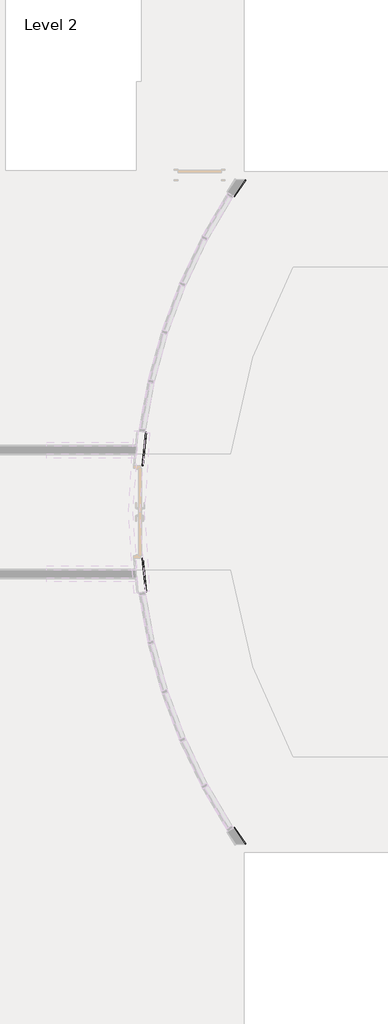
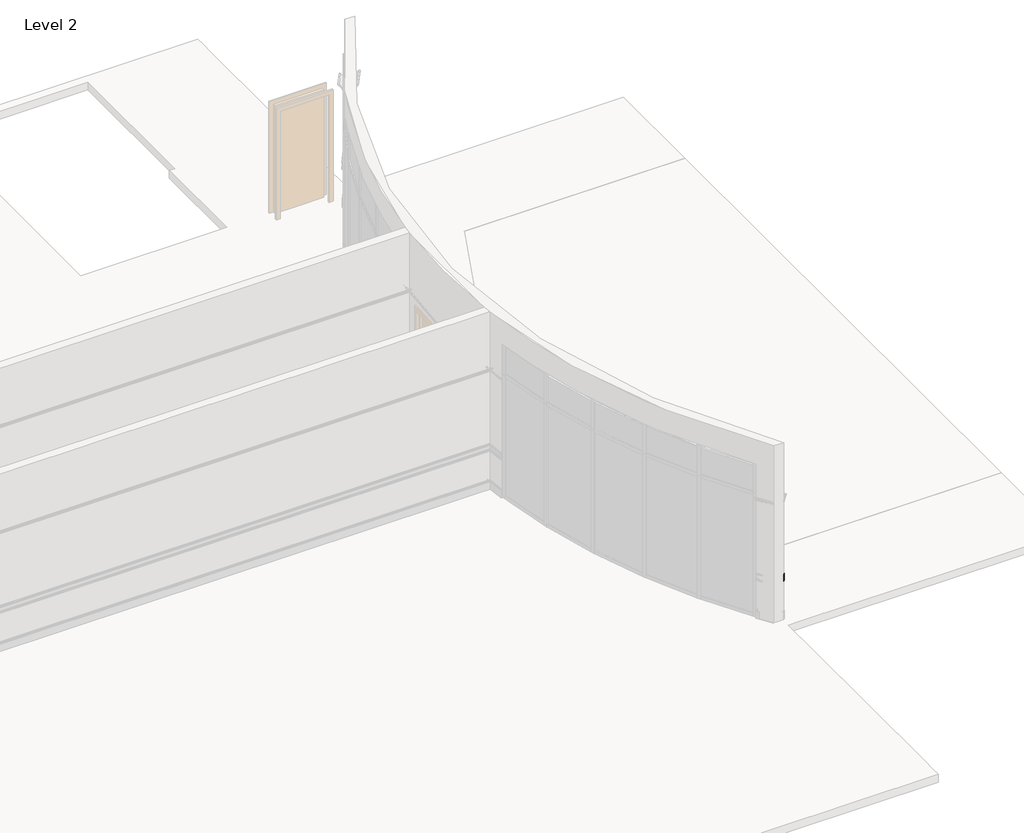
# One storey, part 10 of 14: 1 proxy.
"""IFC4 building model written with IfcOpenShell, lengths in millimetres."""

from ifc_helpers import new_model, si_unit, point, frame, origin, place, context, project, spatial, polyline, circle_curve, ellipse_curve, trimmed, element, save
from ifc_brep_helpers import plane_surface, cylinder_surface, revolved_surface, advanced_brep

model = new_model("IFC4")

# Units and contexts
model_context = context("Model", 3, world=origin())
ifc_project = project(units=[si_unit("LENGTHUNIT", "METRE", prefix="MILLI")], contexts=[model_context])

# Site, building, storey
site = spatial("IfcSite", under=ifc_project)
building = spatial("IfcBuilding", under=site)
storey = spatial("IfcBuildingStorey", under=building, Name="Level 2", Elevation=3657.6)

# Proxy
placement = place(None, origin())
element("IfcBuildingElementProxy", 1, Name="Wall Sweeps", at=placement, inside=storey, context=model_context, shape_type="AdvancedBrep", body=[
    advanced_brep(
    [(12899.4538937, 4456.0523991, 4438.65), (12899.4538937, 4456.0523991, 4540.25), (12898.1548084, 4456.9648319, 4541.8375), (12898.1548084, 4456.9648319, 4559.3), (12915.042917, 4445.103205, 4559.3), (12915.042917, 4445.103205, 4540.25), (12913.0942891, 4446.4718543, 4540.25), (12912.2012928, 4447.0990642, 4533.9398879), (12908.9862207, 4449.3572203, 4525.16875), (12907.2484053, 4450.577802, 4525.16875), (12907.2484053, 4450.577802, 4453.73125), (12908.9862207, 4449.3572203, 4453.73125), (12912.2012928, 4447.0990642, 4444.9601121), (12913.0942891, 4446.4718543, 4438.65), (12915.042917, 4445.103205, 4438.65), (12915.042917, 4445.103205, 4419.6), (12898.1548084, 4456.9648319, 4419.6), (12898.1548084, 4456.9648319, 4437.0625), (12664.4370706, 4108.8186405, 4438.65), (12663.1071836, 4109.6855643, 4437.0625), (12663.1071836, 4109.6855643, 4419.6), (12680.3957141, 4098.4155546, 4419.6), (12680.3957141, 4098.4155546, 4438.65), (12678.4008837, 4099.7159403, 4438.65), (12677.4867141, 4100.3118672, 4444.9601121), (12674.1954118, 4102.4573942, 4453.73125), (12672.4163923, 4103.6170976, 4453.73125), (12672.4163923, 4103.6170976, 4525.16875), (12674.1954118, 4102.4573942, 4525.16875), (12677.4867141, 4100.3118672, 4533.9398879), (12678.4008837, 4099.7159403, 4540.25), (12680.3957141, 4098.4155546, 4540.25), (12680.3957141, 4098.4155546, 4559.3), (12663.1071836, 4109.6855643, 4559.3), (12663.1071836, 4109.6855643, 4541.8375), (12664.4370706, 4108.8186405, 4540.25)],
    [
        (0, 1),
        (1, 2),
        (2, 3),
        (3, 4),
        (4, 5),
        (5, 6),
        (6, 7, circle_curve(frame((12908.9862207, 4449.3572203, 4537.86875), z_axis=(0.5747608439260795, 0.81832143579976, 0.0), x_axis=(0.81832143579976, -0.5747608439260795, 0.0)), 5.55625)),
        (7, 8, circle_curve(frame((12918.5734169, 4442.6235032, 4525.1864328), z_axis=(-0.5747608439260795, -0.81832143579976, 0.0), x_axis=(0.81832143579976, -0.5747608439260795, 0.0)), 11.7156984)),
        (8, 9),
        (9, 10),
        (10, 11),
        (11, 12, circle_curve(frame((12918.5734169, 4442.6235032, 4453.7135672), z_axis=(-0.5747608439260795, -0.81832143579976, 0.0), x_axis=(0.81832143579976, -0.5747608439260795, 0.0)), 11.7156984)),
        (12, 13, circle_curve(frame((12908.9862207, 4449.3572203, 4441.03125), z_axis=(0.5747608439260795, 0.81832143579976, 0.0), x_axis=(0.81832143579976, -0.5747608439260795, 0.0)), 5.55625)),
        (13, 14),
        (14, 15),
        (15, 16),
        (16, 17),
        (17, 0),
        (18, 19),
        (19, 20),
        (20, 21),
        (21, 22),
        (22, 23),
        (23, 24, circle_curve(frame((12674.1954118, 4102.4573942, 4441.03125), z_axis=(-0.5460937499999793, -0.8377240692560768, 0.0), x_axis=(0.8377240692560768, -0.5460937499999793, 0.0)), 5.55625)),
        (24, 25, circle_curve(frame((12684.0099232, 4096.0595318, 4453.7135672), z_axis=(0.5460937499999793, 0.8377240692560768, 0.0), x_axis=(0.8377240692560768, -0.5460937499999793, 0.0)), 11.7156984)),
        (25, 26),
        (26, 27),
        (27, 28),
        (28, 29, circle_curve(frame((12684.0099232, 4096.0595318, 4525.1864328), z_axis=(0.5460937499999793, 0.8377240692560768, 0.0), x_axis=(0.8377240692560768, -0.5460937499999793, 0.0)), 11.7156984)),
        (29, 30, circle_curve(frame((12674.1954118, 4102.4573942, 4537.86875), z_axis=(-0.5460937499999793, -0.8377240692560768, 0.0), x_axis=(0.8377240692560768, -0.5460937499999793, 0.0)), 5.55625)),
        (30, 31),
        (31, 32),
        (32, 33),
        (33, 34),
        (34, 35),
        (35, 18),
        (35, 1, circle_curve(frame((22811.474575, -2505.8101681, 4540.25), z_axis=(0.0, 0.0, -1.0), x_axis=(-0.8183214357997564, 0.5747608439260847, 0.0)), 12112.625)),
        (0, 18, circle_curve(frame((22811.474575, -2505.8101681, 4438.65), z_axis=(0.0, 0.0, 1.0), x_axis=(-0.8183214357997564, 0.5747608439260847, 0.0)), 12112.625)),
        (34, 2, circle_curve(frame((22811.474575, -2505.8101681, 4541.8375), z_axis=(0.0, 0.0, -1.0), x_axis=(-0.8183214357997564, 0.5747608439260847, 0.0)), 12114.2125)),
        (33, 3, circle_curve(frame((22811.474575, -2505.8101681, 4559.3), z_axis=(0.0, 0.0, -1.0), x_axis=(-0.8183214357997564, 0.5747608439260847, 0.0)), 12114.2125)),
        (32, 4, circle_curve(frame((22811.474575, -2505.8101681, 4559.3), z_axis=(0.0, 0.0, -1.0), x_axis=(-0.8183214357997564, 0.5747608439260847, 0.0)), 12093.575)),
        (31, 5, circle_curve(frame((22811.474575, -2505.8101681, 4540.25), z_axis=(0.0, 0.0, -1.0), x_axis=(-0.8183214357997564, 0.5747608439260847, 0.0)), 12093.575)),
        (30, 6, circle_curve(frame((22811.474575, -2505.8101681, 4540.25), z_axis=(0.0, 0.0, -1.0), x_axis=(-0.8183214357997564, 0.5747608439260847, 0.0)), 12095.95625)),
        (29, 7, circle_curve(frame((22811.474575, -2505.8101681, 4533.9398879), z_axis=(0.0, 0.0, -1.0), x_axis=(-0.8183214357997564, 0.5747608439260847, 0.0)), 12097.0475037)),
        (28, 8, circle_curve(frame((22811.474575, -2505.8101681, 4525.16875), z_axis=(0.0, 0.0, -1.0), x_axis=(-0.8183214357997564, 0.5747608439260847, 0.0)), 12100.9763658)),
        (27, 9, circle_curve(frame((22811.474575, -2505.8101681, 4525.16875), z_axis=(0.0, 0.0, -1.0), x_axis=(-0.8183214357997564, 0.5747608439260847, 0.0)), 12103.1)),
        (26, 10, circle_curve(frame((22811.474575, -2505.8101681, 4453.73125), z_axis=(0.0, 0.0, -1.0), x_axis=(-0.8183214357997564, 0.5747608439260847, 0.0)), 12103.1)),
        (25, 11, circle_curve(frame((22811.474575, -2505.8101681, 4453.73125), z_axis=(0.0, 0.0, -1.0), x_axis=(-0.8183214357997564, 0.5747608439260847, 0.0)), 12100.9763658)),
        (24, 12, circle_curve(frame((22811.474575, -2505.8101681, 4444.9601121), z_axis=(0.0, 0.0, -1.0), x_axis=(-0.8183214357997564, 0.5747608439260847, 0.0)), 12097.0475037)),
        (23, 13, circle_curve(frame((22811.474575, -2505.8101681, 4438.65), z_axis=(0.0, 0.0, -1.0), x_axis=(-0.8183214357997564, 0.5747608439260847, 0.0)), 12095.95625)),
        (22, 14, circle_curve(frame((22811.474575, -2505.8101681, 4438.65), z_axis=(0.0, 0.0, -1.0), x_axis=(-0.8183214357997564, 0.5747608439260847, 0.0)), 12093.575)),
        (21, 15, circle_curve(frame((22811.474575, -2505.8101681, 4419.6), z_axis=(0.0, 0.0, -1.0), x_axis=(-0.8183214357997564, 0.5747608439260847, 0.0)), 12093.575)),
        (20, 16, circle_curve(frame((22811.474575, -2505.8101681, 4419.6), z_axis=(0.0, 0.0, -1.0), x_axis=(-0.8183214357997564, 0.5747608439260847, 0.0)), 12114.2125)),
        (19, 17, circle_curve(frame((22811.474575, -2505.8101681, 4437.0625), z_axis=(0.0, 0.0, -1.0), x_axis=(-0.8183214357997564, 0.5747608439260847, 0.0)), 12114.2125)),
    ],
    [
        plane_surface(frame((22811.474575, -2505.8101681, 4419.6), z_axis=(0.5747608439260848, 0.8183214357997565, 0.0), x_axis=(-0.8183214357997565, 0.5747608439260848, 0.0))),
        plane_surface(frame((22811.474575, -2505.8101681, 4419.6), z_axis=(-0.5460937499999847, -0.8377240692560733, 0.0), x_axis=(-0.8377240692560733, 0.5460937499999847, 0.0))),
        cylinder_surface(frame((22811.474575, -2505.8101681, 4419.6), z_axis=(0.0, 0.0, 1.0), x_axis=(-0.8183214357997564, 0.5747608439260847, 0.0)), 12112.625),
        revolved_surface(polyline([(12899.4538937, 4456.0523991, 4540.25), (12898.1548084, 4456.9648319, 4541.8375)]), (22811.474575, -2505.8101681, 4419.6), (0.0, 0.0, 1.0)),
        cylinder_surface(frame((22811.474575, -2505.8101681, 4419.6), z_axis=(0.0, 0.0, 1.0), x_axis=(-0.8183214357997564, 0.5747608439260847, 0.0)), 12114.2125),
        plane_surface(frame((22811.474575, -2505.8101681, 4559.3), z_axis=(0.0, 0.0, 1.0000000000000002), x_axis=(-0.8183214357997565, 0.5747608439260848, 0.0))),
        revolved_surface(polyline([(12915.042917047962, 4445.103204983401, 4559.3), (12915.042917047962, 4445.103204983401, 4540.25)]), (22811.474575, -2505.8101681, 4419.6), (0.0, 0.0, 1.0)),
        plane_surface(frame((22811.474575, -2505.8101681, 4540.25), z_axis=(0.0, 0.0, -1.0000000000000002), x_axis=(-0.8183214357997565, 0.5747608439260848, 0.0))),
        revolved_surface(trimmed(ellipse_curve(frame((12908.9862207, 4449.3572203, 4537.86875), z_axis=(0.5747608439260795, 0.81832143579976, 0.0), x_axis=(0.81832143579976, -0.5747608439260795, 0.0)), 5.55625, 5.55625), [point((12913.0942891, 4446.4718543, 4540.25))], [point((12912.2012928, 4447.0990642, 4533.9398879))], True, "CARTESIAN"), (22811.474575, -2505.8101681, 4419.6), (0.0, 0.0, 1.0)),
        revolved_surface(trimmed(ellipse_curve(frame((12918.5734169, 4442.6235032, 4525.1864328), z_axis=(-0.5747608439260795, -0.81832143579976, 0.0), x_axis=(0.81832143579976, -0.5747608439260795, 0.0)), 11.7156984, 11.7156984), [point((12912.2012928, 4447.0990642, 4533.9398879))], [point((12908.9862207, 4449.3572203, 4525.16875))], True, "CARTESIAN"), (22811.474575, -2505.8101681, 4419.6), (0.0, 0.0, 1.0)),
        plane_surface(frame((22811.474575, -2505.8101681, 4525.16875), z_axis=(0.0, 0.0, -1.0000000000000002), x_axis=(-0.8183214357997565, 0.5747608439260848, 0.0))),
        revolved_surface(polyline([(12907.248405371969, 4450.577802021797, 4525.16875), (12907.248405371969, 4450.577802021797, 4453.73125)]), (22811.474575, -2505.8101681, 4419.6), (0.0, 0.0, 1.0)),
        plane_surface(frame((22811.474575, -2505.8101681, 4453.73125), z_axis=(0.0, 0.0, 1.0000000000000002), x_axis=(-0.8183214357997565, 0.5747608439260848, 0.0))),
        revolved_surface(trimmed(ellipse_curve(frame((12918.5734169, 4442.6235032, 4453.7135672), z_axis=(-0.5747608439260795, -0.81832143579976, 0.0), x_axis=(0.81832143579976, -0.5747608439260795, 0.0)), 11.7156984, 11.7156984), [point((12908.9862207, 4449.3572203, 4453.73125))], [point((12912.2012928, 4447.0990642, 4444.9601121))], True, "CARTESIAN"), (22811.474575, -2505.8101681, 4419.6), (0.0, 0.0, 1.0)),
        revolved_surface(trimmed(ellipse_curve(frame((12908.9862207, 4449.3572203, 4441.03125), z_axis=(0.5747608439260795, 0.81832143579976, 0.0), x_axis=(0.81832143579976, -0.5747608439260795, 0.0)), 5.55625, 5.55625), [point((12912.2012928, 4447.0990642, 4444.9601121))], [point((12913.0942891, 4446.4718543, 4438.65))], True, "CARTESIAN"), (22811.474575, -2505.8101681, 4419.6), (0.0, 0.0, 1.0)),
        plane_surface(frame((22811.474575, -2505.8101681, 4438.65), z_axis=(0.0, 0.0, 1.0000000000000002), x_axis=(-0.8183214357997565, 0.5747608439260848, 0.0))),
        revolved_surface(polyline([(12915.042917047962, 4445.103204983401, 4438.65), (12915.042917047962, 4445.103204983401, 4419.6)]), (22811.474575, -2505.8101681, 4419.6), (0.0, 0.0, 1.0)),
        plane_surface(frame((22811.474575, -2505.8101681, 4419.6), z_axis=(0.0, 0.0, -1.0000000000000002), x_axis=(-0.8183214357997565, 0.5747608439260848, 0.0))),
        revolved_surface(polyline([(12898.1548084, 4456.9648319, 4437.0625), (12899.4538937, 4456.0523991, 4438.65)]), (22811.474575, -2505.8101681, 4419.6), (0.0, 0.0, 1.0)),
    ],
    [
        (0, [[1, 2, 3, 4, 5, 6, 7, 8, 9, 10, 11, 12, 13, 14, 15, 16, 17, 18]]),
        (1, [[19, 20, 21, 22, 23, 24, 25, 26, 27, 28, 29, 30, 31, 32, 33, 34, 35, 36]]),
        (2, [[37, -1, 38, -36]]),
        (3, [[39, -2, -37, -35]]),
        (4, [[40, -3, -39, -34]]),
        (5, [[41, -4, -40, -33]]),
        (6, [[42, -5, -41, -32]]),
        (7, [[43, -6, -42, -31]]),
        (8, [[44, -7, -43, -30]]),
        (9, [[45, -8, -44, -29]]),
        (10, [[46, -9, -45, -28]]),
        (11, [[47, -10, -46, -27]]),
        (12, [[48, -11, -47, -26]]),
        (13, [[49, -12, -48, -25]]),
        (14, [[50, -13, -49, -24]]),
        (15, [[51, -14, -50, -23]]),
        (16, [[52, -15, -51, -22]]),
        (17, [[53, -16, -52, -21]]),
        (4, [[54, -17, -53, -20]]),
        (18, [[-38, -18, -54, -19]]),
    ],
),
    advanced_brep(
    [(10814.3364141, -837.1699011, 4438.65), (10814.3364141, -837.1699011, 4540.25), (10812.76405, -836.9512065, 4541.8375), (10812.76405, -836.9512065, 4559.3), (10833.2047834, -839.7942371, 4559.3), (10833.2047834, -839.7942371, 4540.25), (10830.8462373, -839.4661951, 4540.25), (10829.765388, -839.3158635, 4533.9398879), (10825.8739854, -838.7746218, 4525.16875), (10823.7705988, -838.4820691, 4525.16875), (10823.7705988, -838.4820691, 4453.73125), (10825.8739854, -838.7746218, 4453.73125), (10829.765388, -839.3158635, 4444.9601121), (10830.8462373, -839.4661951, 4438.65), (10833.2047834, -839.7942371, 4438.65), (10833.2047834, -839.7942371, 4419.6), (10812.76405, -836.9512065, 4419.6), (10812.76405, -836.9512065, 4437.0625), (10737.3569053, -1540.7366522, 4438.65), (10735.7744522, -1540.6101681, 4437.0625), (10735.7744522, -1540.6101681, 4419.6), (10756.3463434, -1542.2544611, 4419.6), (10756.3463434, -1542.2544611, 4438.65), (10753.9726636, -1542.064735, 4438.65), (10752.8848791, -1541.9777893, 4444.9601121), (10748.9685073, -1541.6647572, 4453.73125), (10746.8516244, -1541.4955566, 4453.73125), (10746.8516244, -1541.4955566, 4525.16875), (10748.9685073, -1541.6647572, 4525.16875), (10752.8848791, -1541.9777893, 4533.9398879), (10753.9726636, -1542.064735, 4540.25), (10756.3463434, -1542.2544611, 4540.25), (10756.3463434, -1542.2544611, 4559.3), (10735.7744522, -1540.6101681, 4559.3), (10735.7744522, -1540.6101681, 4541.8375), (10737.3569053, -1540.7366522, 4540.25)],
    [
        (0, 1),
        (1, 2),
        (2, 3),
        (3, 4),
        (4, 5),
        (5, 6),
        (6, 7, circle_curve(frame((10825.8739854, -838.7746218, 4537.86875), z_axis=(0.1377604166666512, 0.9904655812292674, 0.0), x_axis=(0.9904655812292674, -0.1377604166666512, 0.0)), 5.55625)),
        (7, 8, circle_curve(frame((10837.4779682, -840.3885795, 4525.1864328), z_axis=(-0.1377604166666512, -0.9904655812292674, 0.0), x_axis=(0.9904655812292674, -0.1377604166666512, 0.0)), 11.7156984)),
        (8, 9),
        (9, 10),
        (10, 11),
        (11, 12, circle_curve(frame((10837.4779682, -840.3885795, 4453.7135672), z_axis=(-0.1377604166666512, -0.9904655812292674, 0.0), x_axis=(0.9904655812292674, -0.1377604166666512, 0.0)), 11.7156984)),
        (12, 13, circle_curve(frame((10825.8739854, -838.7746218, 4441.03125), z_axis=(0.1377604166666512, 0.9904655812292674, 0.0), x_axis=(0.9904655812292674, -0.1377604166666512, 0.0)), 5.55625)),
        (13, 14),
        (14, 15),
        (15, 16),
        (16, 17),
        (17, 0),
        (18, 19),
        (19, 20),
        (20, 21),
        (21, 22),
        (22, 23),
        (23, 24, circle_curve(frame((10748.9685073, -1541.6647572, 4441.03125), z_axis=(-0.07967500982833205, -0.9968208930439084, 0.0), x_axis=(0.9968208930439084, -0.07967500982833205, 0.0)), 5.55625)),
        (24, 25, circle_curve(frame((10760.646947, -1542.5982045, 4453.7135672), z_axis=(0.07967500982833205, 0.9968208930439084, 0.0), x_axis=(0.9968208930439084, -0.07967500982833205, 0.0)), 11.7156984)),
        (25, 26),
        (26, 27),
        (27, 28),
        (28, 29, circle_curve(frame((10760.646947, -1542.5982045, 4525.1864328), z_axis=(0.07967500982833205, 0.9968208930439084, 0.0), x_axis=(0.9968208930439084, -0.07967500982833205, 0.0)), 11.7156984)),
        (29, 30, circle_curve(frame((10748.9685073, -1541.6647572, 4537.86875), z_axis=(-0.07967500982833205, -0.9968208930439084, 0.0), x_axis=(0.9968208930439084, -0.07967500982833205, 0.0)), 5.55625)),
        (30, 31),
        (31, 32),
        (32, 33),
        (33, 34),
        (34, 35),
        (35, 18),
        (35, 1, circle_curve(frame((22811.474575, -2505.8101681, 4540.25), z_axis=(0.0, 0.0, -1.0), x_axis=(-0.9904655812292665, 0.13776041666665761, 0.0)), 12112.625)),
        (0, 18, circle_curve(frame((22811.474575, -2505.8101681, 4438.65), z_axis=(0.0, 0.0, 1.0), x_axis=(-0.9904655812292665, 0.13776041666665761, 0.0)), 12112.625)),
        (34, 2, circle_curve(frame((22811.474575, -2505.8101681, 4541.8375), z_axis=(0.0, 0.0, -1.0), x_axis=(-0.9904655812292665, 0.13776041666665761, 0.0)), 12114.2125)),
        (33, 3, circle_curve(frame((22811.474575, -2505.8101681, 4559.3), z_axis=(0.0, 0.0, -1.0), x_axis=(-0.9904655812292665, 0.13776041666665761, 0.0)), 12114.2125)),
        (32, 4, circle_curve(frame((22811.474575, -2505.8101681, 4559.3), z_axis=(0.0, 0.0, -1.0), x_axis=(-0.9904655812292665, 0.13776041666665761, 0.0)), 12093.575)),
        (31, 5, circle_curve(frame((22811.474575, -2505.8101681, 4540.25), z_axis=(0.0, 0.0, -1.0), x_axis=(-0.9904655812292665, 0.13776041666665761, 0.0)), 12093.575)),
        (30, 6, circle_curve(frame((22811.474575, -2505.8101681, 4540.25), z_axis=(0.0, 0.0, -1.0), x_axis=(-0.9904655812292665, 0.13776041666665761, 0.0)), 12095.95625)),
        (29, 7, circle_curve(frame((22811.474575, -2505.8101681, 4533.9398879), z_axis=(0.0, 0.0, -1.0), x_axis=(-0.9904655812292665, 0.13776041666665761, 0.0)), 12097.0475037)),
        (28, 8, circle_curve(frame((22811.474575, -2505.8101681, 4525.16875), z_axis=(0.0, 0.0, -1.0), x_axis=(-0.9904655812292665, 0.13776041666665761, 0.0)), 12100.9763658)),
        (27, 9, circle_curve(frame((22811.474575, -2505.8101681, 4525.16875), z_axis=(0.0, 0.0, -1.0), x_axis=(-0.9904655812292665, 0.13776041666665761, 0.0)), 12103.1)),
        (26, 10, circle_curve(frame((22811.474575, -2505.8101681, 4453.73125), z_axis=(0.0, 0.0, -1.0), x_axis=(-0.9904655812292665, 0.13776041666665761, 0.0)), 12103.1)),
        (25, 11, circle_curve(frame((22811.474575, -2505.8101681, 4453.73125), z_axis=(0.0, 0.0, -1.0), x_axis=(-0.9904655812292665, 0.13776041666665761, 0.0)), 12100.9763658)),
        (24, 12, circle_curve(frame((22811.474575, -2505.8101681, 4444.9601121), z_axis=(0.0, 0.0, -1.0), x_axis=(-0.9904655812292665, 0.13776041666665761, 0.0)), 12097.0475037)),
        (23, 13, circle_curve(frame((22811.474575, -2505.8101681, 4438.65), z_axis=(0.0, 0.0, -1.0), x_axis=(-0.9904655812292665, 0.13776041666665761, 0.0)), 12095.95625)),
        (22, 14, circle_curve(frame((22811.474575, -2505.8101681, 4438.65), z_axis=(0.0, 0.0, -1.0), x_axis=(-0.9904655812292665, 0.13776041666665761, 0.0)), 12093.575)),
        (21, 15, circle_curve(frame((22811.474575, -2505.8101681, 4419.6), z_axis=(0.0, 0.0, -1.0), x_axis=(-0.9904655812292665, 0.13776041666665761, 0.0)), 12093.575)),
        (20, 16, circle_curve(frame((22811.474575, -2505.8101681, 4419.6), z_axis=(0.0, 0.0, -1.0), x_axis=(-0.9904655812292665, 0.13776041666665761, 0.0)), 12114.2125)),
        (19, 17, circle_curve(frame((22811.474575, -2505.8101681, 4437.0625), z_axis=(0.0, 0.0, -1.0), x_axis=(-0.9904655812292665, 0.13776041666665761, 0.0)), 12114.2125)),
    ],
    [
        plane_surface(frame((22811.474575, -2505.8101681, 4419.6), z_axis=(0.13776041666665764, 0.9904655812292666, 0.0), x_axis=(-0.9904655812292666, 0.13776041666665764, 0.0))),
        plane_surface(frame((22811.474575, -2505.8101681, 4419.6), z_axis=(-0.07967500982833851, -0.996820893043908, 0.0), x_axis=(-0.996820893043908, 0.07967500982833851, 0.0))),
        cylinder_surface(frame((22811.474575, -2505.8101681, 4419.6), z_axis=(0.0, 0.0, 1.0), x_axis=(-0.9904655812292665, 0.13776041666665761, 0.0)), 12112.625),
        revolved_surface(polyline([(10814.3364141, -837.1699011, 4540.25), (10812.76405, -836.9512065, 4541.8375)]), (22811.474575, -2505.8101681, 4419.6), (0.0, 0.0, 1.0)),
        cylinder_surface(frame((22811.474575, -2505.8101681, 4419.6), z_axis=(0.0, 0.0, 1.0), x_axis=(-0.9904655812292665, 0.13776041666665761, 0.0)), 12114.2125),
        plane_surface(frame((22811.474575, -2505.8101681, 4559.3), z_axis=(0.0, 0.0, 1.0000000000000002), x_axis=(-0.9904655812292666, 0.13776041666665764, 0.0))),
        revolved_surface(polyline([(10833.204783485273, -839.794237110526, 4559.3), (10833.204783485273, -839.794237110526, 4540.25)]), (22811.474575, -2505.8101681, 4419.6), (0.0, 0.0, 1.0)),
        plane_surface(frame((22811.474575, -2505.8101681, 4540.25), z_axis=(0.0, 0.0, -1.0000000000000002), x_axis=(-0.9904655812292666, 0.13776041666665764, 0.0))),
        revolved_surface(trimmed(ellipse_curve(frame((10825.8739854, -838.7746218, 4537.86875), z_axis=(0.1377604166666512, 0.9904655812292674, 0.0), x_axis=(0.9904655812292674, -0.1377604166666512, 0.0)), 5.55625, 5.55625), [point((10830.8462373, -839.4661951, 4540.25))], [point((10829.765388, -839.3158635, 4533.9398879))], True, "CARTESIAN"), (22811.474575, -2505.8101681, 4419.6), (0.0, 0.0, 1.0)),
        revolved_surface(trimmed(ellipse_curve(frame((10837.4779682, -840.3885795, 4525.1864328), z_axis=(-0.1377604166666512, -0.9904655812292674, 0.0), x_axis=(0.9904655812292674, -0.1377604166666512, 0.0)), 11.7156984, 11.7156984), [point((10829.765388, -839.3158635, 4533.9398879))], [point((10825.8739854, -838.7746218, 4525.16875))], True, "CARTESIAN"), (22811.474575, -2505.8101681, 4419.6), (0.0, 0.0, 1.0)),
        plane_surface(frame((22811.474575, -2505.8101681, 4525.16875), z_axis=(0.0, 0.0, -1.0000000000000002), x_axis=(-0.9904655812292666, 0.13776041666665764, 0.0))),
        revolved_surface(polyline([(10823.770598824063, -838.482069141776, 4525.16875), (10823.770598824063, -838.482069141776, 4453.73125)]), (22811.474575, -2505.8101681, 4419.6), (0.0, 0.0, 1.0)),
        plane_surface(frame((22811.474575, -2505.8101681, 4453.73125), z_axis=(0.0, 0.0, 1.0000000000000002), x_axis=(-0.9904655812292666, 0.13776041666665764, 0.0))),
        revolved_surface(trimmed(ellipse_curve(frame((10837.4779682, -840.3885795, 4453.7135672), z_axis=(-0.1377604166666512, -0.9904655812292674, 0.0), x_axis=(0.9904655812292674, -0.1377604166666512, 0.0)), 11.7156984, 11.7156984), [point((10825.8739854, -838.7746218, 4453.73125))], [point((10829.765388, -839.3158635, 4444.9601121))], True, "CARTESIAN"), (22811.474575, -2505.8101681, 4419.6), (0.0, 0.0, 1.0)),
        revolved_surface(trimmed(ellipse_curve(frame((10825.8739854, -838.7746218, 4441.03125), z_axis=(0.1377604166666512, 0.9904655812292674, 0.0), x_axis=(0.9904655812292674, -0.1377604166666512, 0.0)), 5.55625, 5.55625), [point((10829.765388, -839.3158635, 4444.9601121))], [point((10830.8462373, -839.4661951, 4438.65))], True, "CARTESIAN"), (22811.474575, -2505.8101681, 4419.6), (0.0, 0.0, 1.0)),
        plane_surface(frame((22811.474575, -2505.8101681, 4438.65), z_axis=(0.0, 0.0, 1.0000000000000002), x_axis=(-0.9904655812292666, 0.13776041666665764, 0.0))),
        revolved_surface(polyline([(10833.204783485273, -839.794237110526, 4438.65), (10833.204783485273, -839.794237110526, 4419.6)]), (22811.474575, -2505.8101681, 4419.6), (0.0, 0.0, 1.0)),
        plane_surface(frame((22811.474575, -2505.8101681, 4419.6), z_axis=(0.0, 0.0, -1.0000000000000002), x_axis=(-0.9904655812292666, 0.13776041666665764, 0.0))),
        revolved_surface(polyline([(10812.76405, -836.9512065, 4437.0625), (10814.3364141, -837.1699011, 4438.65)]), (22811.474575, -2505.8101681, 4419.6), (0.0, 0.0, 1.0)),
    ],
    [
        (0, [[1, 2, 3, 4, 5, 6, 7, 8, 9, 10, 11, 12, 13, 14, 15, 16, 17, 18]]),
        (1, [[19, 20, 21, 22, 23, 24, 25, 26, 27, 28, 29, 30, 31, 32, 33, 34, 35, 36]]),
        (2, [[37, -1, 38, -36]]),
        (3, [[39, -2, -37, -35]]),
        (4, [[40, -3, -39, -34]]),
        (5, [[41, -4, -40, -33]]),
        (6, [[42, -5, -41, -32]]),
        (7, [[43, -6, -42, -31]]),
        (8, [[44, -7, -43, -30]]),
        (9, [[45, -8, -44, -29]]),
        (10, [[46, -9, -45, -28]]),
        (11, [[47, -10, -46, -27]]),
        (12, [[48, -11, -47, -26]]),
        (13, [[49, -12, -48, -25]]),
        (14, [[50, -13, -49, -24]]),
        (15, [[51, -14, -50, -23]]),
        (16, [[52, -15, -51, -22]]),
        (17, [[53, -16, -52, -21]]),
        (4, [[54, -17, -53, -20]]),
        (18, [[-38, -18, -54, -19]]),
    ],
),
    advanced_brep(
    [(10737.3569053, -3470.883684, 4438.65), (10737.3569053, -3470.883684, 4540.25), (10735.7744522, -3471.0101681, 4541.8375), (10735.7744522, -3471.0101681, 4559.3), (10756.3463434, -3469.3658751, 4559.3), (10756.3463434, -3469.3658751, 4540.25), (10753.9726636, -3469.5556012, 4540.25), (10752.8848791, -3469.6425468, 4533.9398879), (10748.9685073, -3469.9555789, 4525.16875), (10746.8516244, -3470.1247795, 4525.16875), (10746.8516244, -3470.1247795, 4453.73125), (10748.9685073, -3469.9555789, 4453.73125), (10752.8848791, -3469.6425468, 4444.9601121), (10753.9726636, -3469.5556012, 4438.65), (10756.3463434, -3469.3658751, 4438.65), (10756.3463434, -3469.3658751, 4419.6), (10735.7744522, -3471.0101681, 4419.6), (10735.7744522, -3471.0101681, 4437.0625), (10814.3364141, -4174.450435, 4438.65), (10812.76405, -4174.6691297, 4437.0625), (10812.76405, -4174.6691297, 4419.6), (10833.2047834, -4171.8260991, 4419.6), (10833.2047834, -4171.8260991, 4438.65), (10830.8462373, -4172.1541411, 4438.65), (10829.765388, -4172.3044726, 4444.9601121), (10825.8739854, -4172.8457143, 4453.73125), (10823.7705988, -4173.138267, 4453.73125), (10823.7705988, -4173.138267, 4525.16875), (10825.8739854, -4172.8457143, 4525.16875), (10829.765388, -4172.3044726, 4533.9398879), (10830.8462373, -4172.1541411, 4540.25), (10833.2047834, -4171.8260991, 4540.25), (10833.2047834, -4171.8260991, 4559.3), (10812.76405, -4174.6691297, 4559.3), (10812.76405, -4174.6691297, 4541.8375), (10814.3364141, -4174.450435, 4540.25)],
    [
        (0, 1),
        (1, 2),
        (2, 3),
        (3, 4),
        (4, 5),
        (5, 6),
        (6, 7, circle_curve(frame((10748.9685073, -3469.9555789, 4537.86875), z_axis=(-0.07967500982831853, 0.9968208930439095, 0.0), x_axis=(0.9968208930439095, 0.07967500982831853, 0.0)), 5.55625)),
        (7, 8, circle_curve(frame((10760.646947, -3469.0221316, 4525.1864328), z_axis=(0.07967500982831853, -0.9968208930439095, 0.0), x_axis=(0.9968208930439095, 0.07967500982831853, 0.0)), 11.7156984)),
        (8, 9),
        (9, 10),
        (10, 11),
        (11, 12, circle_curve(frame((10760.646947, -3469.0221316, 4453.7135672), z_axis=(0.07967500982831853, -0.9968208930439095, 0.0), x_axis=(0.9968208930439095, 0.07967500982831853, 0.0)), 11.7156984)),
        (12, 13, circle_curve(frame((10748.9685073, -3469.9555789, 4441.03125), z_axis=(-0.07967500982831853, 0.9968208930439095, 0.0), x_axis=(0.9968208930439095, 0.07967500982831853, 0.0)), 5.55625)),
        (13, 14),
        (14, 15),
        (15, 16),
        (16, 17),
        (17, 0),
        (18, 19),
        (19, 20),
        (20, 21),
        (21, 22),
        (22, 23),
        (23, 24, circle_curve(frame((10825.8739854, -4172.8457143, 4441.03125), z_axis=(0.13776041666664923, -0.9904655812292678, 0.0), x_axis=(0.9904655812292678, 0.13776041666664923, 0.0)), 5.55625)),
        (24, 25, circle_curve(frame((10837.4779682, -4171.2317566, 4453.7135672), z_axis=(-0.13776041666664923, 0.9904655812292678, 0.0), x_axis=(0.9904655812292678, 0.13776041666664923, 0.0)), 11.7156984)),
        (25, 26),
        (26, 27),
        (27, 28),
        (28, 29, circle_curve(frame((10837.4779682, -4171.2317566, 4525.1864328), z_axis=(-0.13776041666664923, 0.9904655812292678, 0.0), x_axis=(0.9904655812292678, 0.13776041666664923, 0.0)), 11.7156984)),
        (29, 30, circle_curve(frame((10825.8739854, -4172.8457143, 4537.86875), z_axis=(0.13776041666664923, -0.9904655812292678, 0.0), x_axis=(0.9904655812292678, 0.13776041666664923, 0.0)), 5.55625)),
        (30, 31),
        (31, 32),
        (32, 33),
        (33, 34),
        (34, 35),
        (35, 18),
        (35, 1, circle_curve(frame((22811.474575, -2505.8101681, 4540.25), z_axis=(0.0, 0.0, -1.0), x_axis=(-0.9968208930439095, -0.07967500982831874, 0.0)), 12112.625)),
        (0, 18, circle_curve(frame((22811.474575, -2505.8101681, 4438.65), z_axis=(0.0, 0.0, 1.0), x_axis=(-0.9968208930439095, -0.07967500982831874, 0.0)), 12112.625)),
        (34, 2, circle_curve(frame((22811.474575, -2505.8101681, 4541.8375), z_axis=(0.0, 0.0, -1.0), x_axis=(-0.9968208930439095, -0.07967500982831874, 0.0)), 12114.2125)),
        (33, 3, circle_curve(frame((22811.474575, -2505.8101681, 4559.3), z_axis=(0.0, 0.0, -1.0), x_axis=(-0.9968208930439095, -0.07967500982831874, 0.0)), 12114.2125)),
        (32, 4, circle_curve(frame((22811.474575, -2505.8101681, 4559.3), z_axis=(0.0, 0.0, -1.0), x_axis=(-0.9968208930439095, -0.07967500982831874, 0.0)), 12093.575)),
        (31, 5, circle_curve(frame((22811.474575, -2505.8101681, 4540.25), z_axis=(0.0, 0.0, -1.0), x_axis=(-0.9968208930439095, -0.07967500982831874, 0.0)), 12093.575)),
        (30, 6, circle_curve(frame((22811.474575, -2505.8101681, 4540.25), z_axis=(0.0, 0.0, -1.0), x_axis=(-0.9968208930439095, -0.07967500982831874, 0.0)), 12095.95625)),
        (29, 7, circle_curve(frame((22811.474575, -2505.8101681, 4533.9398879), z_axis=(0.0, 0.0, -1.0), x_axis=(-0.9968208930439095, -0.07967500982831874, 0.0)), 12097.0475037)),
        (28, 8, circle_curve(frame((22811.474575, -2505.8101681, 4525.16875), z_axis=(0.0, 0.0, -1.0), x_axis=(-0.9968208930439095, -0.07967500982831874, 0.0)), 12100.9763658)),
        (27, 9, circle_curve(frame((22811.474575, -2505.8101681, 4525.16875), z_axis=(0.0, 0.0, -1.0), x_axis=(-0.9968208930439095, -0.07967500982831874, 0.0)), 12103.1)),
        (26, 10, circle_curve(frame((22811.474575, -2505.8101681, 4453.73125), z_axis=(0.0, 0.0, -1.0), x_axis=(-0.9968208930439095, -0.07967500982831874, 0.0)), 12103.1)),
        (25, 11, circle_curve(frame((22811.474575, -2505.8101681, 4453.73125), z_axis=(0.0, 0.0, -1.0), x_axis=(-0.9968208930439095, -0.07967500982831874, 0.0)), 12100.9763658)),
        (24, 12, circle_curve(frame((22811.474575, -2505.8101681, 4444.9601121), z_axis=(0.0, 0.0, -1.0), x_axis=(-0.9968208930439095, -0.07967500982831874, 0.0)), 12097.0475037)),
        (23, 13, circle_curve(frame((22811.474575, -2505.8101681, 4438.65), z_axis=(0.0, 0.0, -1.0), x_axis=(-0.9968208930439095, -0.07967500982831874, 0.0)), 12095.95625)),
        (22, 14, circle_curve(frame((22811.474575, -2505.8101681, 4438.65), z_axis=(0.0, 0.0, -1.0), x_axis=(-0.9968208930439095, -0.07967500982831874, 0.0)), 12093.575)),
        (21, 15, circle_curve(frame((22811.474575, -2505.8101681, 4419.6), z_axis=(0.0, 0.0, -1.0), x_axis=(-0.9968208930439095, -0.07967500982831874, 0.0)), 12093.575)),
        (20, 16, circle_curve(frame((22811.474575, -2505.8101681, 4419.6), z_axis=(0.0, 0.0, -1.0), x_axis=(-0.9968208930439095, -0.07967500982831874, 0.0)), 12114.2125)),
        (19, 17, circle_curve(frame((22811.474575, -2505.8101681, 4437.0625), z_axis=(0.0, 0.0, -1.0), x_axis=(-0.9968208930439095, -0.07967500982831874, 0.0)), 12114.2125)),
    ],
    [
        plane_surface(frame((22811.474575, -2505.8101681, 4419.6), z_axis=(-0.07967500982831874, 0.9968208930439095, 0.0), x_axis=(-0.9968208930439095, -0.07967500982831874, 0.0))),
        plane_surface(frame((22811.474575, -2505.8101681, 4419.6), z_axis=(0.13776041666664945, -0.9904655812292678, 0.0), x_axis=(-0.9904655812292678, -0.13776041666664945, 0.0))),
        cylinder_surface(frame((22811.474575, -2505.8101681, 4419.6), z_axis=(0.0, 0.0, 1.0), x_axis=(-0.9968208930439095, -0.07967500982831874, 0.0)), 12112.625),
        revolved_surface(polyline([(10737.3569053, -3470.883684, 4540.25), (10735.7744522, -3471.0101681, 4541.8375)]), (22811.474575, -2505.8101681, 4419.6), (0.0, 0.0, 1.0)),
        cylinder_surface(frame((22811.474575, -2505.8101681, 4419.6), z_axis=(0.0, 0.0, 1.0), x_axis=(-0.9968208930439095, -0.07967500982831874, 0.0)), 12114.2125),
        plane_surface(frame((22811.474575, -2505.8101681, 4559.3), z_axis=(0.0, 0.0, 1.0), x_axis=(-0.9968208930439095, -0.07967500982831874, 0.0))),
        revolved_surface(polyline([(10756.346343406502, -3469.3658750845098, 4559.3), (10756.346343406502, -3469.3658750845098, 4540.25)]), (22811.474575, -2505.8101681, 4419.6), (0.0, 0.0, 1.0)),
        plane_surface(frame((22811.474575, -2505.8101681, 4540.25), z_axis=(0.0, 0.0, -1.0), x_axis=(-0.9968208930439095, -0.07967500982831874, 0.0))),
        revolved_surface(trimmed(ellipse_curve(frame((10748.9685073, -3469.9555789, 4537.86875), z_axis=(-0.07967500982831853, 0.9968208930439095, 0.0), x_axis=(0.9968208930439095, 0.07967500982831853, 0.0)), 5.55625, 5.55625), [point((10753.9726636, -3469.5556012, 4540.25))], [point((10752.8848791, -3469.6425468, 4533.9398879))], True, "CARTESIAN"), (22811.474575, -2505.8101681, 4419.6), (0.0, 0.0, 1.0)),
        revolved_surface(trimmed(ellipse_curve(frame((10760.646947, -3469.0221316, 4525.1864328), z_axis=(0.07967500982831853, -0.9968208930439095, 0.0), x_axis=(0.9968208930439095, 0.07967500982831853, 0.0)), 11.7156984, 11.7156984), [point((10752.8848791, -3469.6425468, 4533.9398879))], [point((10748.9685073, -3469.9555789, 4525.16875))], True, "CARTESIAN"), (22811.474575, -2505.8101681, 4419.6), (0.0, 0.0, 1.0)),
        plane_surface(frame((22811.474575, -2505.8101681, 4525.16875), z_axis=(0.0, 0.0, -1.0), x_axis=(-0.9968208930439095, -0.07967500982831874, 0.0))),
        revolved_surface(polyline([(10746.851624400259, -3470.1247795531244, 4525.16875), (10746.851624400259, -3470.1247795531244, 4453.73125)]), (22811.474575, -2505.8101681, 4419.6), (0.0, 0.0, 1.0)),
        plane_surface(frame((22811.474575, -2505.8101681, 4453.73125), z_axis=(0.0, 0.0, 1.0), x_axis=(-0.9968208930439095, -0.07967500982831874, 0.0))),
        revolved_surface(trimmed(ellipse_curve(frame((10760.646947, -3469.0221316, 4453.7135672), z_axis=(0.07967500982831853, -0.9968208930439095, 0.0), x_axis=(0.9968208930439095, 0.07967500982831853, 0.0)), 11.7156984, 11.7156984), [point((10748.9685073, -3469.9555789, 4453.73125))], [point((10752.8848791, -3469.6425468, 4444.9601121))], True, "CARTESIAN"), (22811.474575, -2505.8101681, 4419.6), (0.0, 0.0, 1.0)),
        revolved_surface(trimmed(ellipse_curve(frame((10748.9685073, -3469.9555789, 4441.03125), z_axis=(-0.07967500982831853, 0.9968208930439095, 0.0), x_axis=(0.9968208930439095, 0.07967500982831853, 0.0)), 5.55625, 5.55625), [point((10752.8848791, -3469.6425468, 4444.9601121))], [point((10753.9726636, -3469.5556012, 4438.65))], True, "CARTESIAN"), (22811.474575, -2505.8101681, 4419.6), (0.0, 0.0, 1.0)),
        plane_surface(frame((22811.474575, -2505.8101681, 4438.65), z_axis=(0.0, 0.0, 1.0), x_axis=(-0.9968208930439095, -0.07967500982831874, 0.0))),
        revolved_surface(polyline([(10756.346343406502, -3469.3658750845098, 4438.65), (10756.346343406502, -3469.3658750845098, 4419.6)]), (22811.474575, -2505.8101681, 4419.6), (0.0, 0.0, 1.0)),
        plane_surface(frame((22811.474575, -2505.8101681, 4419.6), z_axis=(0.0, 0.0, -1.0), x_axis=(-0.9968208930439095, -0.07967500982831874, 0.0))),
        revolved_surface(polyline([(10735.7744522, -3471.0101681, 4437.0625), (10737.3569053, -3470.883684, 4438.65)]), (22811.474575, -2505.8101681, 4419.6), (0.0, 0.0, 1.0)),
    ],
    [
        (0, [[1, 2, 3, 4, 5, 6, 7, 8, 9, 10, 11, 12, 13, 14, 15, 16, 17, 18]]),
        (1, [[19, 20, 21, 22, 23, 24, 25, 26, 27, 28, 29, 30, 31, 32, 33, 34, 35, 36]]),
        (2, [[37, -1, 38, -36]]),
        (3, [[39, -2, -37, -35]]),
        (4, [[40, -3, -39, -34]]),
        (5, [[41, -4, -40, -33]]),
        (6, [[42, -5, -41, -32]]),
        (7, [[43, -6, -42, -31]]),
        (8, [[44, -7, -43, -30]]),
        (9, [[45, -8, -44, -29]]),
        (10, [[46, -9, -45, -28]]),
        (11, [[47, -10, -46, -27]]),
        (12, [[48, -11, -47, -26]]),
        (13, [[49, -12, -48, -25]]),
        (14, [[50, -13, -49, -24]]),
        (15, [[51, -14, -50, -23]]),
        (16, [[52, -15, -51, -22]]),
        (17, [[53, -16, -52, -21]]),
        (4, [[54, -17, -53, -20]]),
        (18, [[-38, -18, -54, -19]]),
    ],
),
    advanced_brep(
    [(12664.4370706, -9120.4389767, 4438.65), (12664.4370706, -9120.4389767, 4540.25), (12663.1071836, -9121.3059005, 4541.8375), (12663.1071836, -9121.3059005, 4559.3), (12680.3957141, -9110.0358907, 4559.3), (12680.3957141, -9110.0358907, 4540.25), (12678.4008837, -9111.3362765, 4540.25), (12677.4867141, -9111.9322033, 4533.9398879), (12674.1954118, -9114.0777303, 4525.16875), (12672.4163923, -9115.2374337, 4525.16875), (12672.4163923, -9115.2374337, 4453.73125), (12674.1954118, -9114.0777303, 4453.73125), (12677.4867141, -9111.9322033, 4444.9601121), (12678.4008837, -9111.3362765, 4438.65), (12680.3957141, -9110.0358907, 4438.65), (12680.3957141, -9110.0358907, 4419.6), (12663.1071836, -9121.3059005, 4419.6), (12663.1071836, -9121.3059005, 4437.0625), (12899.4538937, -9467.6727352, 4438.65), (12898.1548084, -9468.5851681, 4437.0625), (12898.1548084, -9468.5851681, 4419.6), (12915.042917, -9456.7235412, 4419.6), (12915.042917, -9456.7235412, 4438.65), (12913.0942891, -9458.0921904, 4438.65), (12912.2012928, -9458.7194003, 4444.9601121), (12908.9862207, -9460.9775564, 4453.73125), (12907.2484053, -9462.1981382, 4453.73125), (12907.2484053, -9462.1981382, 4525.16875), (12908.9862207, -9460.9775564, 4525.16875), (12912.2012928, -9458.7194003, 4533.9398879), (12913.0942891, -9458.0921904, 4540.25), (12915.042917, -9456.7235412, 4540.25), (12915.042917, -9456.7235412, 4559.3), (12898.1548084, -9468.5851681, 4559.3), (12898.1548084, -9468.5851681, 4541.8375), (12899.4538937, -9467.6727352, 4540.25)],
    [
        (0, 1),
        (1, 2),
        (2, 3),
        (3, 4),
        (4, 5),
        (5, 6),
        (6, 7, circle_curve(frame((12674.1954118, -9114.0777303, 4537.86875), z_axis=(-0.5460937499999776, 0.8377240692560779, 0.0), x_axis=(0.8377240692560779, 0.5460937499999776, 0.0)), 5.55625)),
        (7, 8, circle_curve(frame((12684.0099232, -9107.6798679, 4525.1864328), z_axis=(0.5460937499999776, -0.8377240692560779, 0.0), x_axis=(0.8377240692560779, 0.5460937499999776, 0.0)), 11.7156984)),
        (8, 9),
        (9, 10),
        (10, 11),
        (11, 12, circle_curve(frame((12684.0099232, -9107.6798679, 4453.7135672), z_axis=(0.5460937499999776, -0.8377240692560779, 0.0), x_axis=(0.8377240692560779, 0.5460937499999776, 0.0)), 11.7156984)),
        (12, 13, circle_curve(frame((12674.1954118, -9114.0777303, 4441.03125), z_axis=(-0.5460937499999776, 0.8377240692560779, 0.0), x_axis=(0.8377240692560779, 0.5460937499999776, 0.0)), 5.55625)),
        (13, 14),
        (14, 15),
        (15, 16),
        (16, 17),
        (17, 0),
        (18, 19),
        (19, 20),
        (20, 21),
        (21, 22),
        (22, 23),
        (23, 24, circle_curve(frame((12908.9862207, -9460.9775564, 4441.03125), z_axis=(0.574760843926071, -0.818321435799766, 0.0), x_axis=(0.818321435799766, 0.574760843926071, 0.0)), 5.55625)),
        (24, 25, circle_curve(frame((12918.5734169, -9454.2438394, 4453.7135672), z_axis=(-0.574760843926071, 0.818321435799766, 0.0), x_axis=(0.818321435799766, 0.574760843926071, 0.0)), 11.7156984)),
        (25, 26),
        (26, 27),
        (27, 28),
        (28, 29, circle_curve(frame((12918.5734169, -9454.2438394, 4525.1864328), z_axis=(-0.574760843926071, 0.818321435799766, 0.0), x_axis=(0.818321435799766, 0.574760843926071, 0.0)), 11.7156984)),
        (29, 30, circle_curve(frame((12908.9862207, -9460.9775564, 4537.86875), z_axis=(0.574760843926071, -0.818321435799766, 0.0), x_axis=(0.818321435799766, 0.574760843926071, 0.0)), 5.55625)),
        (30, 31),
        (31, 32),
        (32, 33),
        (33, 34),
        (34, 35),
        (35, 18),
        (35, 1, circle_curve(frame((22811.474575, -2505.8101681, 4540.25), z_axis=(0.0, 0.0, -1.0), x_axis=(-0.8377240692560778, -0.5460937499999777, 0.0)), 12112.625)),
        (0, 18, circle_curve(frame((22811.474575, -2505.8101681, 4438.65), z_axis=(0.0, 0.0, 1.0), x_axis=(-0.8377240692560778, -0.5460937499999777, 0.0)), 12112.625)),
        (34, 2, circle_curve(frame((22811.474575, -2505.8101681, 4541.8375), z_axis=(0.0, 0.0, -1.0), x_axis=(-0.8377240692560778, -0.5460937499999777, 0.0)), 12114.2125)),
        (33, 3, circle_curve(frame((22811.474575, -2505.8101681, 4559.3), z_axis=(0.0, 0.0, -1.0), x_axis=(-0.8377240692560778, -0.5460937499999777, 0.0)), 12114.2125)),
        (32, 4, circle_curve(frame((22811.474575, -2505.8101681, 4559.3), z_axis=(0.0, 0.0, -1.0), x_axis=(-0.8377240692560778, -0.5460937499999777, 0.0)), 12093.575)),
        (31, 5, circle_curve(frame((22811.474575, -2505.8101681, 4540.25), z_axis=(0.0, 0.0, -1.0), x_axis=(-0.8377240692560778, -0.5460937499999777, 0.0)), 12093.575)),
        (30, 6, circle_curve(frame((22811.474575, -2505.8101681, 4540.25), z_axis=(0.0, 0.0, -1.0), x_axis=(-0.8377240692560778, -0.5460937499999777, 0.0)), 12095.95625)),
        (29, 7, circle_curve(frame((22811.474575, -2505.8101681, 4533.9398879), z_axis=(0.0, 0.0, -1.0), x_axis=(-0.8377240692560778, -0.5460937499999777, 0.0)), 12097.0475037)),
        (28, 8, circle_curve(frame((22811.474575, -2505.8101681, 4525.16875), z_axis=(0.0, 0.0, -1.0), x_axis=(-0.8377240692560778, -0.5460937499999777, 0.0)), 12100.9763658)),
        (27, 9, circle_curve(frame((22811.474575, -2505.8101681, 4525.16875), z_axis=(0.0, 0.0, -1.0), x_axis=(-0.8377240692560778, -0.5460937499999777, 0.0)), 12103.1)),
        (26, 10, circle_curve(frame((22811.474575, -2505.8101681, 4453.73125), z_axis=(0.0, 0.0, -1.0), x_axis=(-0.8377240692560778, -0.5460937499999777, 0.0)), 12103.1)),
        (25, 11, circle_curve(frame((22811.474575, -2505.8101681, 4453.73125), z_axis=(0.0, 0.0, -1.0), x_axis=(-0.8377240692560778, -0.5460937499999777, 0.0)), 12100.9763658)),
        (24, 12, circle_curve(frame((22811.474575, -2505.8101681, 4444.9601121), z_axis=(0.0, 0.0, -1.0), x_axis=(-0.8377240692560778, -0.5460937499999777, 0.0)), 12097.0475037)),
        (23, 13, circle_curve(frame((22811.474575, -2505.8101681, 4438.65), z_axis=(0.0, 0.0, -1.0), x_axis=(-0.8377240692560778, -0.5460937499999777, 0.0)), 12095.95625)),
        (22, 14, circle_curve(frame((22811.474575, -2505.8101681, 4438.65), z_axis=(0.0, 0.0, -1.0), x_axis=(-0.8377240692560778, -0.5460937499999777, 0.0)), 12093.575)),
        (21, 15, circle_curve(frame((22811.474575, -2505.8101681, 4419.6), z_axis=(0.0, 0.0, -1.0), x_axis=(-0.8377240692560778, -0.5460937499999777, 0.0)), 12093.575)),
        (20, 16, circle_curve(frame((22811.474575, -2505.8101681, 4419.6), z_axis=(0.0, 0.0, -1.0), x_axis=(-0.8377240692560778, -0.5460937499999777, 0.0)), 12114.2125)),
        (19, 17, circle_curve(frame((22811.474575, -2505.8101681, 4437.0625), z_axis=(0.0, 0.0, -1.0), x_axis=(-0.8377240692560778, -0.5460937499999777, 0.0)), 12114.2125)),
    ],
    [
        plane_surface(frame((22811.474575, -2505.8101681, 4419.6), z_axis=(-0.5460937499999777, 0.8377240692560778, 0.0), x_axis=(-0.8377240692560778, -0.5460937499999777, 0.0))),
        plane_surface(frame((22811.474575, -2505.8101681, 4419.6), z_axis=(0.5747608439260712, -0.818321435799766, 0.0), x_axis=(-0.818321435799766, -0.5747608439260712, 0.0))),
        cylinder_surface(frame((22811.474575, -2505.8101681, 4419.6), z_axis=(0.0, 0.0, 1.0), x_axis=(-0.8377240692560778, -0.5460937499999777, 0.0)), 12112.625),
        revolved_surface(polyline([(12664.4370706, -9120.4389767, 4540.25), (12663.1071836, -9121.3059005, 4541.8375)]), (22811.474575, -2505.8101681, 4419.6), (0.0, 0.0, 1.0)),
        cylinder_surface(frame((22811.474575, -2505.8101681, 4419.6), z_axis=(0.0, 0.0, 1.0), x_axis=(-0.8377240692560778, -0.5460937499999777, 0.0)), 12114.2125),
        plane_surface(frame((22811.474575, -2505.8101681, 4559.3), z_axis=(0.0, 0.0, 1.0), x_axis=(-0.8377240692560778, -0.5460937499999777, 0.0))),
        revolved_surface(polyline([(12680.395714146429, -9110.035890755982, 4559.3), (12680.395714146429, -9110.035890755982, 4540.25)]), (22811.474575, -2505.8101681, 4419.6), (0.0, 0.0, 1.0)),
        plane_surface(frame((22811.474575, -2505.8101681, 4540.25), z_axis=(0.0, 0.0, -1.0), x_axis=(-0.8377240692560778, -0.5460937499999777, 0.0))),
        revolved_surface(trimmed(ellipse_curve(frame((12674.1954118, -9114.0777303, 4537.86875), z_axis=(-0.5460937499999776, 0.8377240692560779, 0.0), x_axis=(0.8377240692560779, 0.5460937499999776, 0.0)), 5.55625, 5.55625), [point((12678.4008837, -9111.3362765, 4540.25))], [point((12677.4867141, -9111.9322033, 4533.9398879))], True, "CARTESIAN"), (22811.474575, -2505.8101681, 4419.6), (0.0, 0.0, 1.0)),
        revolved_surface(trimmed(ellipse_curve(frame((12684.0099232, -9107.6798679, 4525.1864328), z_axis=(0.5460937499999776, -0.8377240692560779, 0.0), x_axis=(0.8377240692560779, 0.5460937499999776, 0.0)), 11.7156984, 11.7156984), [point((12677.4867141, -9111.9322033, 4533.9398879))], [point((12674.1954118, -9114.0777303, 4525.16875))], True, "CARTESIAN"), (22811.474575, -2505.8101681, 4419.6), (0.0, 0.0, 1.0)),
        plane_surface(frame((22811.474575, -2505.8101681, 4525.16875), z_axis=(0.0, 0.0, -1.0), x_axis=(-0.8377240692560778, -0.5460937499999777, 0.0))),
        revolved_surface(polyline([(12672.416392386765, -9115.237433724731, 4525.16875), (12672.416392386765, -9115.237433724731, 4453.73125)]), (22811.474575, -2505.8101681, 4419.6), (0.0, 0.0, 1.0)),
        plane_surface(frame((22811.474575, -2505.8101681, 4453.73125), z_axis=(0.0, 0.0, 1.0), x_axis=(-0.8377240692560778, -0.5460937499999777, 0.0))),
        revolved_surface(trimmed(ellipse_curve(frame((12684.0099232, -9107.6798679, 4453.7135672), z_axis=(0.5460937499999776, -0.8377240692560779, 0.0), x_axis=(0.8377240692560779, 0.5460937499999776, 0.0)), 11.7156984, 11.7156984), [point((12674.1954118, -9114.0777303, 4453.73125))], [point((12677.4867141, -9111.9322033, 4444.9601121))], True, "CARTESIAN"), (22811.474575, -2505.8101681, 4419.6), (0.0, 0.0, 1.0)),
        revolved_surface(trimmed(ellipse_curve(frame((12674.1954118, -9114.0777303, 4441.03125), z_axis=(-0.5460937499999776, 0.8377240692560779, 0.0), x_axis=(0.8377240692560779, 0.5460937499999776, 0.0)), 5.55625, 5.55625), [point((12677.4867141, -9111.9322033, 4444.9601121))], [point((12678.4008837, -9111.3362765, 4438.65))], True, "CARTESIAN"), (22811.474575, -2505.8101681, 4419.6), (0.0, 0.0, 1.0)),
        plane_surface(frame((22811.474575, -2505.8101681, 4438.65), z_axis=(0.0, 0.0, 1.0), x_axis=(-0.8377240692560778, -0.5460937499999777, 0.0))),
        revolved_surface(polyline([(12680.395714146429, -9110.035890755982, 4438.65), (12680.395714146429, -9110.035890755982, 4419.6)]), (22811.474575, -2505.8101681, 4419.6), (0.0, 0.0, 1.0)),
        plane_surface(frame((22811.474575, -2505.8101681, 4419.6), z_axis=(0.0, 0.0, -1.0), x_axis=(-0.8377240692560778, -0.5460937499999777, 0.0))),
        revolved_surface(polyline([(12663.1071836, -9121.3059005, 4437.0625), (12664.4370706, -9120.4389767, 4438.65)]), (22811.474575, -2505.8101681, 4419.6), (0.0, 0.0, 1.0)),
    ],
    [
        (0, [[1, 2, 3, 4, 5, 6, 7, 8, 9, 10, 11, 12, 13, 14, 15, 16, 17, 18]]),
        (1, [[19, 20, 21, 22, 23, 24, 25, 26, 27, 28, 29, 30, 31, 32, 33, 34, 35, 36]]),
        (2, [[37, -1, 38, -36]]),
        (3, [[39, -2, -37, -35]]),
        (4, [[40, -3, -39, -34]]),
        (5, [[41, -4, -40, -33]]),
        (6, [[42, -5, -41, -32]]),
        (7, [[43, -6, -42, -31]]),
        (8, [[44, -7, -43, -30]]),
        (9, [[45, -8, -44, -29]]),
        (10, [[46, -9, -45, -28]]),
        (11, [[47, -10, -46, -27]]),
        (12, [[48, -11, -47, -26]]),
        (13, [[49, -12, -48, -25]]),
        (14, [[50, -13, -49, -24]]),
        (15, [[51, -14, -50, -23]]),
        (16, [[52, -15, -51, -22]]),
        (17, [[53, -16, -52, -21]]),
        (4, [[54, -17, -53, -20]]),
        (18, [[-38, -18, -54, -19]]),
    ],
),
])

save(model, "model.ifc")
